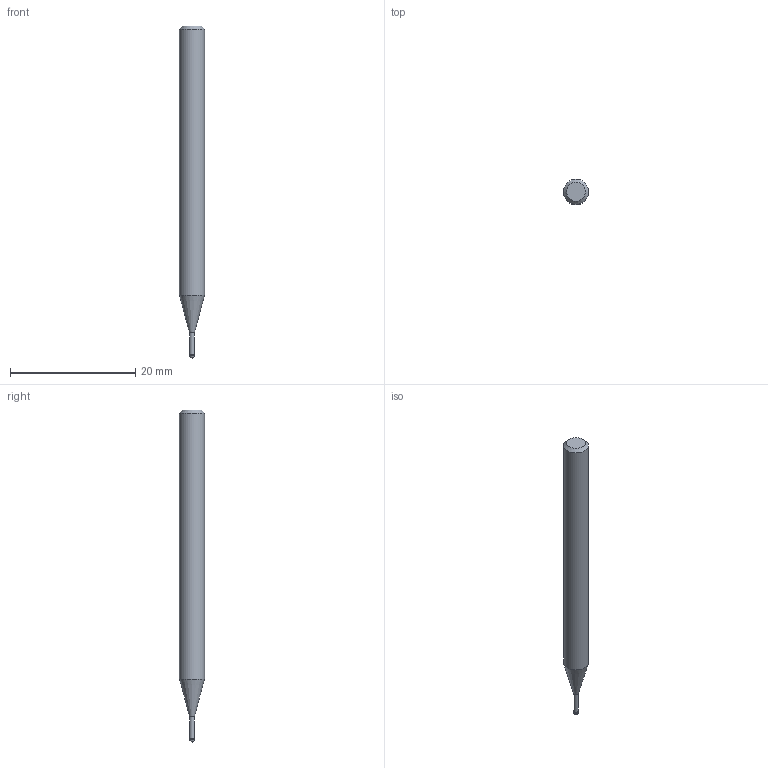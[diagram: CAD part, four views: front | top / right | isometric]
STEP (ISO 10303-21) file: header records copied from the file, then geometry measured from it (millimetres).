
FILE_DESCRIPTION((''),'2;1');
FILE_NAME('C:\Users\nsx150\AppData\Local\Temp\Mastercam 2021\LJSIDMOTM8\TEMP.step','2021-08-03T14:24:00',(''),(''),'STEP Write','Mastercam 2021 ... CNC Software, Inc.','');
FILE_SCHEMA(('AUTOMOTIVE_DESIGN'));
Length unit declared in the file: millimetre
Products named in the file (1): None
Bounding box: 4 x 4 x 53 mm (x, y, z)
Volume: 571.2 mm3; surface area: 605.7 mm2
Topology: 2 solids, 2 shells, 9 faces, 14 edges, 8 vertices
Faces by surface type: plane 3, cylinder 3, cone 2, sphere 1
Full cylindrical faces by diameter (mm): 0.76 x1, 0.8 x1, 4 x1
Entity records: 211 total; most frequent: DIRECTION 36, CARTESIAN_POINT 25, AXIS2_PLACEMENT_3D 18, ORIENTED_EDGE 14, EDGE_LOOP 14, STYLED_ITEM 12, ADVANCED_FACE 9, FACE_BOUND 8
